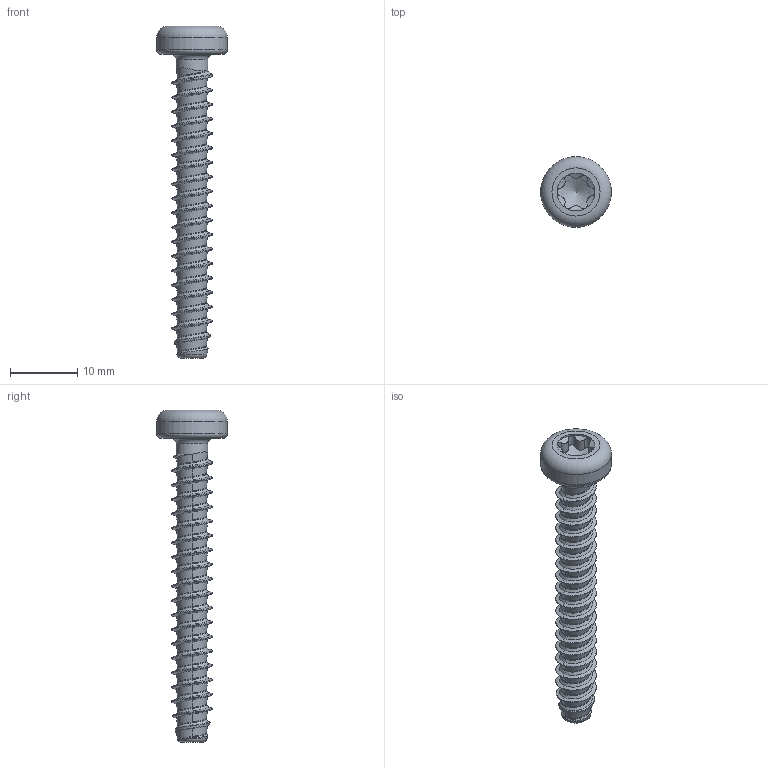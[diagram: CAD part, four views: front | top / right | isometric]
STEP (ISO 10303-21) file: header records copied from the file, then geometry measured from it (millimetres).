
FILE_DESCRIPTION(/* description */ (''),/* implementation_level */ '2;1');
FILE_NAME(/* name */ 'KN6039-STSplus-60x45-T30.step',/* time_stamp */ '2017-10-11T10:28:51+02:00',/* author */ (''),/* organization */ (''),/* preprocessor_version */ 'ST-DEVELOPER v16',/* originating_system */ 'SIEMENS PLM Software NX 10.0',/* authorisation */ '');
FILE_SCHEMA (('AUTOMOTIVE_DESIGN { 1 0 10303 214 3 1 1 1 }'));
Length unit declared in the file: millimetre
Products named in the file (1): KN6039-STSplus-60x45-T30
Bounding box: 10.5 x 10.5 x 49.2 mm (x, y, z)
Volume: 1069.2 mm3; surface area: 1299.7 mm2
Topology: 1 solids, 1 shells, 136 faces, 310 edges, 177 vertices
Faces by surface type: bspline 104, cylinder 16, cone 9, torus 4, plane 3
Full cylindrical faces by diameter (mm): 4.68 x1, 5.6 x1, 10.5 x1
Entity records: 9614 total; most frequent: CARTESIAN_POINT 7281, ORIENTED_EDGE 596, EDGE_CURVE 298, DIRECTION 213, VERTEX_POINT 174, B_SPLINE_CURVE_WITH_KNOTS 169, EDGE_LOOP 145, ADVANCED_FACE 136
